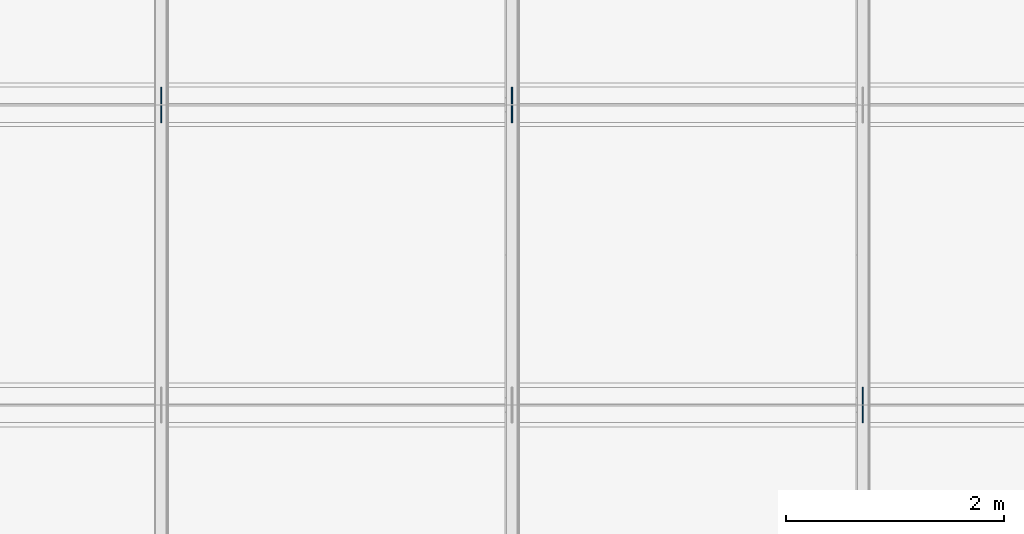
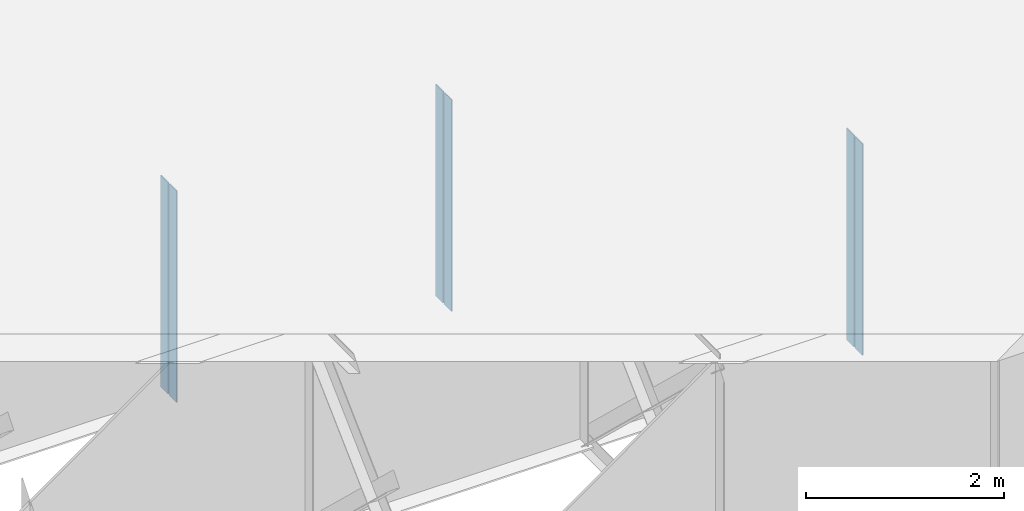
# One storey, part 9 of 20: 6 plates.
"""IFC4 building model written with IfcOpenShell, lengths in metres."""

from ifc_helpers import new_model, si_unit, frame, origin, origin_with_axes, origin_2d_with_axis, place, context, subcontext, project, spatial, rectangle, extrude, element, save


model = new_model("IFC4")

# Units and contexts
model_context = context("Model", 3, precision=1e-05, world=origin())
body_context = subcontext(model_context, "Body", "Model", "MODEL_VIEW")
ifc_project = project(units=[si_unit("LENGTHUNIT", "METRE"), si_unit("AREAUNIT", "SQUARE_METRE"), si_unit("VOLUMEUNIT", "CUBIC_METRE"), si_unit("PLANEANGLEUNIT", "RADIAN")], contexts=[model_context])

# Site, building, storey
site_placement = place(None, origin_with_axes())
site = spatial("IfcSite", under=ifc_project, at=site_placement, Name="Default Site")
building_placement = place(site_placement, origin_with_axes())
building = spatial("IfcBuilding", under=site, at=building_placement, Name="Bridge Structure")
storey_placement = place(building_placement, origin_with_axes())
storey = spatial("IfcBuildingStorey", under=building, at=storey_placement, Name="Superstructure")

# Plates
for number, where, z_axis, x_axis, name in (
    (1, (22.498, -2.66425, -1.307), (0.0, 0.0, 1.0), (1.0, 0.0, 0.0), "Intermediate Stiffener 2"),
    (2, (22.498, -2.83575, -1.307), (0.0, 0.0, 1.0), (1.0, 0.0, 0.0), "Intermediate Stiffener 2"),
    (3, (16.07, 0.08575, -1.307), (0.0, 0.0, 1.0), (1.0, 0.0, 0.0), "Intermediate Stiffener 3"),
    (4, (16.07, -0.08575, -1.307), (0.0, 0.0, 1.0), (1.0, 0.0, 0.0), "Intermediate Stiffener 3"),
    (5, (19.284, 0.08575, -1.307), (0.0, 0.0, 1.0), (1.0, 0.0, 0.0), "Intermediate Stiffener 3"),
    (6, (19.284, -0.08575, -1.307), (0.0, 0.0, 1.0), (1.0, 0.0, 0.0), "Intermediate Stiffener 3"),
):
    element("IfcPlate", number, at=place(storey_placement, frame(where, z_axis=z_axis, x_axis=x_axis)), inside=storey, Name=name, context=body_context, shape_type="SweptSolid", body=[
        extrude(rectangle(XDim=0.012, YDim=0.1535, at=origin_2d_with_axis()), origin_with_axes(), (0.0, 0.0, 1.0), 2.614),
    ])

save(model, "model.ifc")
